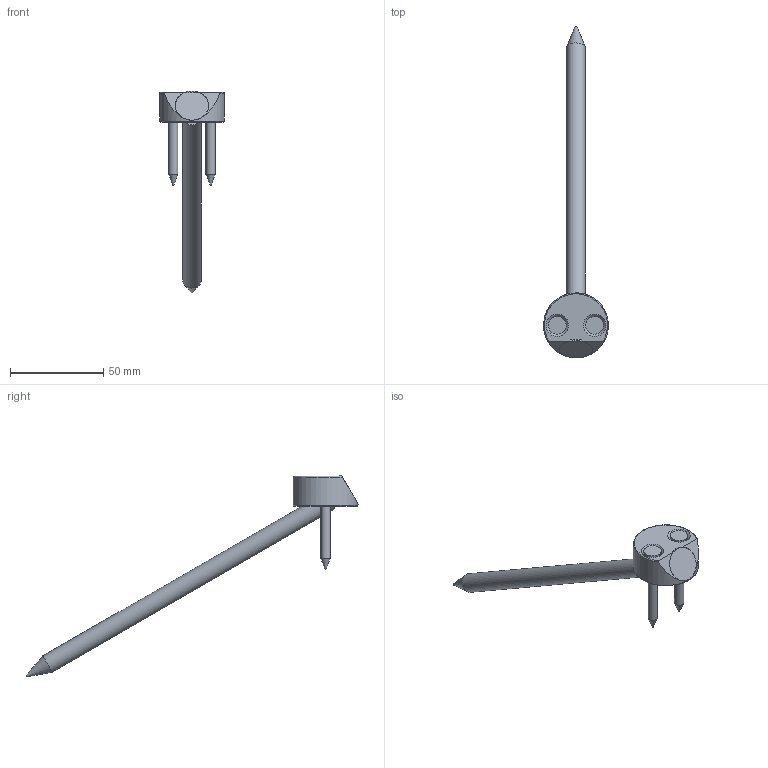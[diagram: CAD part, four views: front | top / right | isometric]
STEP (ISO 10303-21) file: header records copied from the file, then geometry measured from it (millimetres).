
FILE_DESCRIPTION(/* description */ ('Unknown'),/* implementation_level */ '2;1');
FILE_NAME(/* name */ 'T-JOINT_D35_W30_2xSK 5x50_1xSK 10x200',/* time_stamp */ '2022-02-03T10:43:32+01:00',/* author */ ('Unknown'),/* organization */ ('Unknown'),/* preprocessor_version */ 'ST-DEVELOPER v16.7',/* originating_system */ 'Solid Edge',/* authorisation */ 'Unknown');
FILE_SCHEMA (('AUTOMOTIVE_DESIGN {1 0 10303 214 3 1 1}'));
Length unit declared in the file: millimetre
Products named in the file (4): T-Joint_D35_W30_2xSK5x50_1xSK10x200; T-Joint_D35_W30; SK Schraube 5x50_ohne_Gewinde; SK Schraube 10x200_ohne_Gewinde_22042020
Assembly tree (4 placements, depth 2):
  T-Joint_D35_W30_2xSK5x50_1xSK10x200
    T-Joint_D35_W30
    SK Schraube 5x50_ohne_Gewinde  x2
    SK Schraube 10x200_ohne_Gewinde_22042020
Bounding box: 34.79 x 177.97 x 108.23 mm (x, y, z)
Volume: 27942.8 mm3; surface area: 12451.9 mm2
Topology: 4 solids, 4 shells, 35 faces, 67 edges, 41 vertices
Faces by surface type: cylinder 12, plane 11, cone 9, torus 3
Full cylindrical faces by diameter (mm): 5 x2, 6.2 x2, 6.3 x1, 9.5 x2, 10 x2, 12.5 x1, 18 x1, 34.8 x1
Entity records: 738 total; most frequent: DIRECTION 128, CARTESIAN_POINT 111, ORIENTED_EDGE 68, AXIS2_PLACEMENT_3D 63, EDGE_LOOP 55, FACE_BOUND 55, EDGE_CURVE 34, VERTEX_POINT 31
